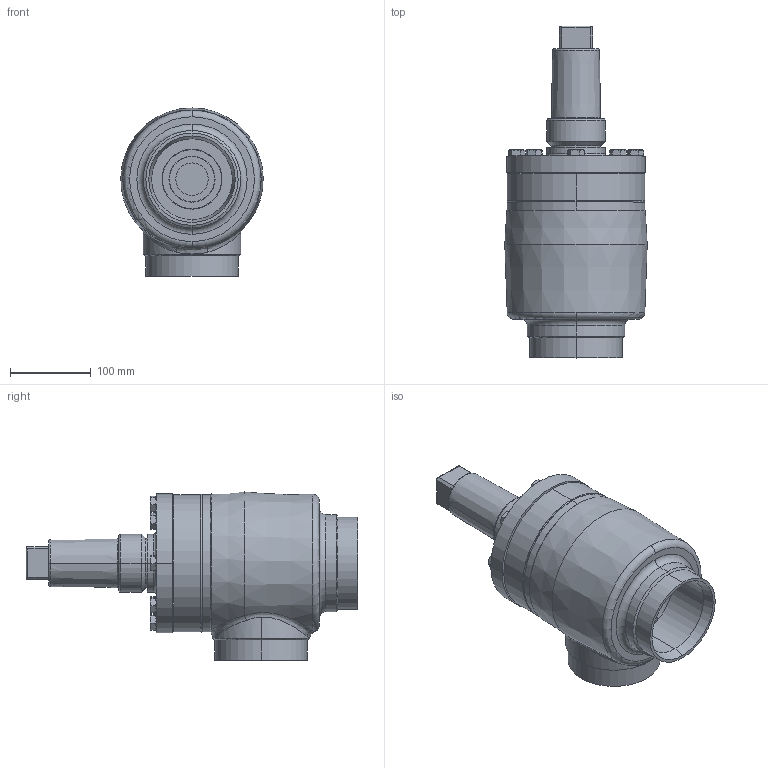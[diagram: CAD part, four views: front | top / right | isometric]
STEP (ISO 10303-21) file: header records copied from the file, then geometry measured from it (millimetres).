
FILE_DESCRIPTION (( 'STEP AP214' ), '1' );
FILE_NAME ('HRAB12400D19-DN100_R1_PS40.STEP', '2007-01-08T07:25:22', ( 'Herr Grams' ), ( 'AWP GmbH' ), 'SwSTEP 2.0', 'SolidWorks 2002296', '' );
FILE_SCHEMA (( 'AUTOMOTIVE_DESIGN' ));
Length unit declared in the file: millimetre
Products named in the file (9): HRAB12400D19-DN100_R1_PS40; Kappe16402_DN080-100_Standard; AVB16300E19_Deck+Schr-DN100_Standard; Deckel16300E19-DN100_Standard; Sechskantschraube-DIN933_M12x 35; Gehäuse-kpl16400-DN100_R1_Standard; Gehäuse16400-DN100_Standard; Kopfstück16300-DN100_Standard; bead-DN100-1_Standard
Assembly tree (15 placements, depth 3):
  HRAB12400D19-DN100_R1_PS40
    Kappe16402_DN080-100_Standard
    AVB16300E19_Deck+Schr-DN100_Standard
      Sechskantschraube-DIN933_M12x 35  x8
      Deckel16300E19-DN100_Standard
    Gehäuse-kpl16400-DN100_R1_Standard
      bead-DN100-1_Standard
      Gehäuse16400-DN100_Standard
      Kopfstück16300-DN100_Standard
Bounding box: 176.38 x 411 x 208.23 mm (x, y, z)
Volume: 2902192.1 mm3; surface area: 455262.1 mm2
Topology: 13 solids, 13 shells, 361 faces, 774 edges, 465 vertices
Faces by surface type: cone 134, plane 106, cylinder 99, torus 12, bspline 10
Entity records: 17606 total; most frequent: CARTESIAN_POINT 12686, DIRECTION 943, ORIENTED_EDGE 820, EDGE_CURVE 410, AXIS2_PLACEMENT_3D 410, VERTEX_POINT 255, EDGE_LOOP 229, CIRCLE 214
